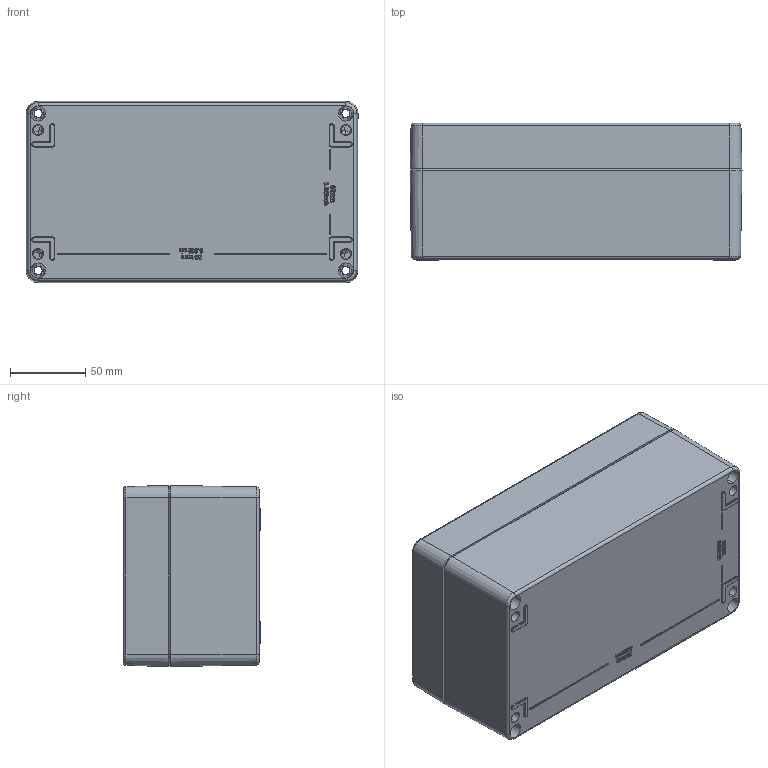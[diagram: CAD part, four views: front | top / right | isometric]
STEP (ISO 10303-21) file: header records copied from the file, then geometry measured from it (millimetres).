
FILE_DESCRIPTION (( 'STEP AP203' ), '1' );
FILE_NAME ('220x120x91 CLOSE.STEP', '2023-06-06T12:53:00', ( '' ), ( '' ), 'SwSTEP 2.0', 'SolidWorks 2017', '' );
FILE_SCHEMA (( 'CONFIG_CONTROL_DESIGN' ));
Length unit declared in the file: millimetre
Products named in the file (3): Base 220X120X91; 220x120x91 CLOSE; Lid 220X120X91
Assembly tree (2 placements, depth 2):
  220x120x91 CLOSE
    Base 220X120X91
    Lid 220X120X91
Bounding box: 220 x 91 x 120 mm (x, y, z)
Volume: 537546.8 mm3; surface area: 236668.2 mm2
Topology: 5 solids, 5 shells, 1390 faces, 3539 edges, 2250 vertices
Faces by surface type: plane 605, bspline 341, cylinder 228, cone 216
Entity records: 58124 total; most frequent: CARTESIAN_POINT 26244, ORIENTED_EDGE 7026, DIRECTION 5702, EDGE_CURVE 3513, VERTEX_POINT 2250, VECTOR 2082, LINE 2082, AXIS2_PLACEMENT_3D 1810
